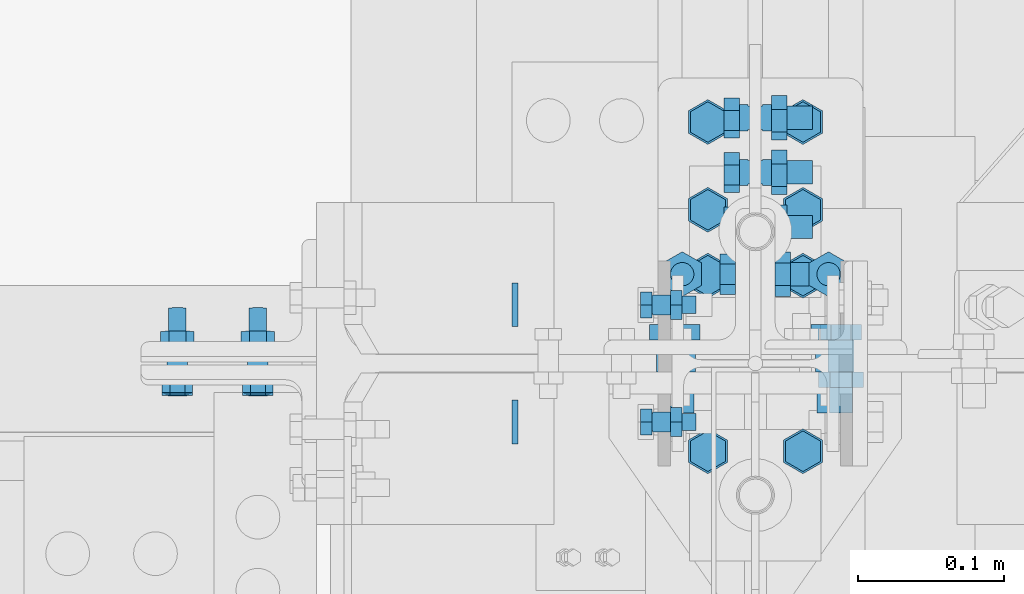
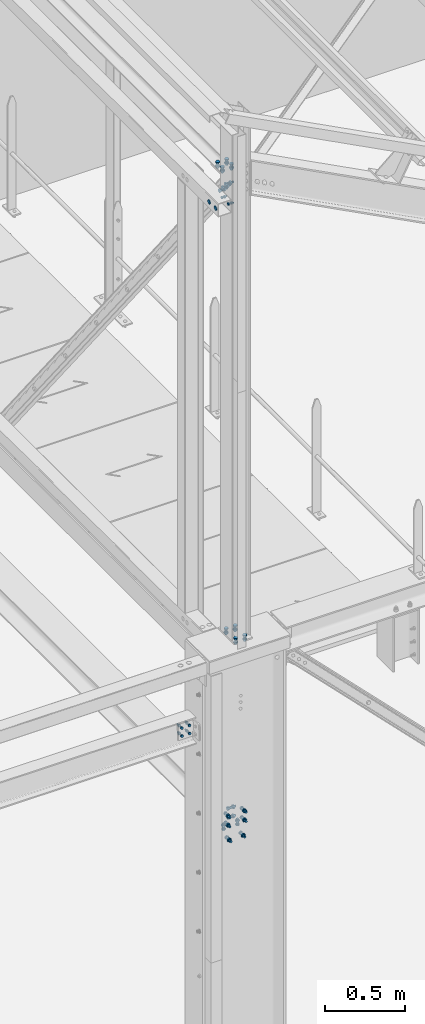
# One storey, part 145 of 362: 11 mechanical fasteners.
"""IFC2X3 building model written with IfcOpenShell, lengths in millimetres."""

from ifc_helpers import new_model, si_unit, frame, origin_with_axes, origin_2d_with_axis, place, context, subcontext, project, spatial, polyline, circle, outline, extrude, source, transform, mapped, material, type_object, element, save


model = new_model("IFC2X3")

# Units and contexts
model_context = context("Model", 3, precision=1e-05, world=origin_with_axes())
body_context = subcontext(model_context, "Body", "Model", "MODEL_VIEW")
ifc_project = project(units=[si_unit("LENGTHUNIT", "METRE", prefix="MILLI"), si_unit("AREAUNIT", "SQUARE_METRE"), si_unit("VOLUMEUNIT", "CUBIC_METRE"), si_unit("MASSUNIT", "GRAM", prefix="KILO"), si_unit("TIMEUNIT", "SECOND"), si_unit("PLANEANGLEUNIT", "RADIAN"), si_unit("SOLIDANGLEUNIT", "STERADIAN"), si_unit("THERMODYNAMICTEMPERATUREUNIT", "DEGREE_CELSIUS"), si_unit("LUMINOUSINTENSITYUNIT", "LUMEN")], contexts=[model_context])

# Site, building, storey
site_placement = place(None, origin_with_axes())
site = spatial("IfcSite", under=ifc_project, at=site_placement, Name="Undefined", CompositionType="ELEMENT")
building_placement = place(site_placement, origin_with_axes())
building = spatial("IfcBuilding", under=site, at=building_placement, Name="Undefined", CompositionType="ELEMENT")
storey_placement = place(building_placement, origin_with_axes())
storey = spatial("IfcBuildingStorey", under=building, at=storey_placement, Name="Undefined", CompositionType="ELEMENT", Elevation=0.0)

# Mechanical fasteners
ifc_material_1 = material(Name="6.8")
mechanical_fastener_type = type_object("IfcMechanicalFastenerType", Name="Bolt assembly")
shared_shape_1 = source(origin_with_axes(), body_context, "Body", "SweptSolid", [
    extrude(circle(Radius=15.0, at=origin_2d_with_axis()), frame((0.0, 0.0, 0.0), z_axis=(0.0, 1.0, 0.0), x_axis=(1.0, 0.0, 0.0)), (0.0, 0.0, 1.0), 4.1),
])
mechanical_fastener_1_placement = place(storey_placement, frame((12513.5000000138, 2.27373675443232e-13, 11870.0), z_axis=(0.0, 1.0, 0.0), x_axis=(0.0, 0.0, 1.0)))
element("IfcMechanicalFastener", 1, at=mechanical_fastener_1_placement, inside=storey, type_object=mechanical_fastener_type, material=ifc_material_1, Name="Bolt assembly", NominalDiameter=30.0, NominalLength=4.0, context=body_context, shape_type="MappedRepresentation", body=[
    mapped(shared_shape_1, transform((0.0, 0.0, 40.0))),
    mapped(shared_shape_1, transform((0.0, 0.0, -40.0))),
])
ifc_material_2 = material(Name="8.8-SB-ZINGUE")
shared_shape_2 = source(origin_with_axes(), body_context, "Body", "SweptSolid", [
    extrude(circle(Radius=9.0, at=origin_2d_with_axis()), frame((0.0, -10.9000000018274, 0.0), z_axis=(0.0, 1.0, 0.0), x_axis=(1.0, 0.0, 0.0)), (0.0, 0.0, 1.0), 6.0),
    extrude(circle(Radius=9.0, at=origin_2d_with_axis()), frame((0.0, 4.9000000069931, 0.0), z_axis=(0.0, 1.0, 0.0), x_axis=(1.0, 0.0, 0.0)), (0.0, 0.0, 1.0), 6.1),
    extrude(circle(Radius=9.0, at=origin_2d_with_axis()), frame((0.0, -3.99999923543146, 0.0), z_axis=(0.0, 1.0, 0.0), x_axis=(1.0, 0.0, 0.0)), (0.0, 0.0, 1.0), 8.0),
    extrude(outline(polyline([(13.85640646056, 0.0), (6.92820323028, 12.0000000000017), (-6.92820323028, 12.0000000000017), (-13.85640646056, 0.0), (-6.92820323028, -12.0000000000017), (6.92820323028, -12.0000000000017), (13.85640646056, 0.0)])), frame((0.0, -21.5600000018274, 0.0), z_axis=(0.0, 1.0, 0.0), x_axis=(1.0, 0.0, 0.0)), (0.0, 0.0, 1.0), 10.56),
    extrude(circle(Radius=8.0, at=origin_2d_with_axis()), frame((0.0, -11.0000000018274, 0.0), z_axis=(0.0, 1.0, 0.0), x_axis=(1.0, 0.0, 0.0)), (0.0, 0.0, 1.0), 50.0),
    extrude(outline(polyline([(15.3344231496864, 0.0), (7.6672115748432, 13.2800000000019), (-7.6672115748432, 13.2800000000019), (-15.3344231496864, 0.0), (-7.6672115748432, -13.2800000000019), (7.6672115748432, -13.2800000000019), (15.3344231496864, 0.0)])), frame((0.0, 11.0000000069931, 0.0), z_axis=(0.0, 1.0, 0.0), x_axis=(1.0, 0.0, 0.0)), (0.0, 0.0, 1.0), 10.56),
])
mechanical_fastener_2_placement = place(storey_placement, frame((12680.0, 93.2660677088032, 11919.5160833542), z_axis=(0.0, -0.78322611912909, -0.621736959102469), x_axis=(0.0, 0.621736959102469, -0.78322611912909)))
element("IfcMechanicalFastener", 2, at=mechanical_fastener_2_placement, inside=storey, type_object=mechanical_fastener_type, material=ifc_material_2, Name="Bolt assembly", NominalDiameter=16.0, NominalLength=50.0, context=body_context, shape_type="MappedRepresentation", body=[
    mapped(shared_shape_2, transform((0.0, 0.0, 0.0))),
    mapped(shared_shape_2, transform((60.0, 0.0, 0.0))),
    mapped(shared_shape_2, transform((120.0, 0.0, 0.0))),
])
shared_shape_3 = source(origin_with_axes(), body_context, "Body", "SweptSolid", [
    extrude(circle(Radius=7.0, at=origin_2d_with_axis()), frame((0.0, -3.89999843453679, 0.0), z_axis=(0.0, 1.0, 0.0), x_axis=(1.0, 0.0, 0.0)), (0.0, 0.0, 1.0), 4.0),
    extrude(circle(Radius=7.0, at=origin_2d_with_axis()), frame((0.0, -0.100011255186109, 0.0), z_axis=(0.0, 1.0, 0.0), x_axis=(1.0, 0.0, 0.0)), (0.0, 0.0, 1.0), 8.6),
    extrude(outline(polyline([(10.39230484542, 0.0), (5.19615242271, 9.00000000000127), (-5.19615242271, 9.00000000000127), (-10.39230484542, 0.0), (-5.19615242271, -9.00000000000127), (5.19615242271, -9.00000000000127), (10.39230484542, 0.0)])), frame((0.0, -11.9199984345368, 0.0), z_axis=(0.0, 1.0, 0.0), x_axis=(1.0, 0.0, 0.0)), (0.0, 0.0, 1.0), 7.92),
    extrude(circle(Radius=6.0, at=origin_2d_with_axis()), frame((0.0, -3.99999923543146, 0.0), z_axis=(0.0, 1.0, 0.0), x_axis=(1.0, 0.0, 0.0)), (0.0, 0.0, 1.0), 30.0),
    extrude(outline(polyline([(11.5008173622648, 0.0), (5.7504086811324, 9.96000000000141), (-5.7504086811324, 9.96000000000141), (-11.5008173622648, 0.0), (-5.7504086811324, -9.96000000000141), (5.7504086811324, -9.96000000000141), (11.5008173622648, 0.0)])), frame((0.0, 8.49999994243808, 0.0), z_axis=(0.0, 1.0, 0.0), x_axis=(1.0, 0.0, 0.0)), (0.0, 0.0, 1.0), 7.92),
])
mechanical_fastener_3_placement = place(storey_placement, frame((12613.5, 0.0, 11869.9999981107), z_axis=(0.0, 1.0, 0.0), x_axis=(0.0, 0.0, 1.0)))
element("IfcMechanicalFastener", 3, at=mechanical_fastener_3_placement, inside=storey, type_object=mechanical_fastener_type, material=ifc_material_2, Name="Bolt assembly", NominalDiameter=12.0, NominalLength=30.0, context=body_context, shape_type="MappedRepresentation", body=[
    mapped(shared_shape_3, transform((0.0, 0.0, -40.0))),
    mapped(shared_shape_3, transform((0.0, 0.0, 40.0))),
])
shared_shape_4 = source(origin_with_axes(), body_context, "Body", "SweptSolid", [
    extrude(circle(Radius=7.0, at=origin_2d_with_axis()), frame((0.0, -2.79781492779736, 0.0), z_axis=(0.0, 1.0, 0.0), x_axis=(1.0, 0.0, 0.0)), (0.0, 0.0, 1.0), 5.6),
    extrude(circle(Radius=7.0, at=origin_2d_with_axis()), frame((0.0, -12.9001594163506, 0.0), z_axis=(0.0, 1.0, 0.0), x_axis=(1.0, 0.0, 0.0)), (0.0, 0.0, 1.0), 10.0),
    extrude(circle(Radius=7.0, at=origin_2d_with_axis()), frame((0.0, 2.90070287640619, 0.0), z_axis=(0.0, 1.0, 0.0), x_axis=(1.0, 0.0, 0.0)), (0.0, 0.0, 1.0), 10.1),
    extrude(outline(polyline([(10.39230484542, 0.0), (5.19615242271, 9.00000000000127), (-5.19615242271, 9.00000000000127), (-10.39230484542, 0.0), (-5.19615242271, -9.00000000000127), (5.19615242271, -9.00000000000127), (10.39230484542, 0.0)])), frame((0.0, -20.9201594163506, 0.0), z_axis=(0.0, 1.0, 0.0), x_axis=(1.0, 0.0, 0.0)), (0.0, 0.0, 1.0), 7.92),
    extrude(circle(Radius=6.0, at=origin_2d_with_axis()), frame((0.0, -13.0001594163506, 0.0), z_axis=(0.0, 1.0, 0.0), x_axis=(1.0, 0.0, 0.0)), (0.0, 0.0, 1.0), 50.0),
    extrude(outline(polyline([(11.5008173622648, 0.0), (5.7504086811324, 9.96000000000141), (-5.7504086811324, 9.96000000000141), (-11.5008173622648, 0.0), (-5.7504086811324, -9.96000000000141), (5.7504086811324, -9.96000000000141), (11.5008173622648, 0.0)])), frame((0.0, 13.0007028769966, 0.0), z_axis=(0.0, 1.0, 0.0), x_axis=(1.0, 0.0, 0.0)), (0.0, 0.0, 1.0), 7.92),
])
mechanical_fastener_4_placement = place(storey_placement, frame((12284.9978557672, -0.0021212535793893, 7949.95412905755), z_axis=(7.58071938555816e-11, 0.0314107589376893, 0.999506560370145), x_axis=(0.999999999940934, -1.08559999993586e-05, 5.27999997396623e-07)))
element("IfcMechanicalFastener", 4, at=mechanical_fastener_4_placement, inside=storey, type_object=mechanical_fastener_type, material=ifc_material_2, Name="Bolt assembly", NominalDiameter=12.0, NominalLength=50.0, context=body_context, shape_type="MappedRepresentation", body=[
    mapped(shared_shape_4, transform((0.0, 0.0, -30.0))),
    mapped(shared_shape_4, transform((55.0000000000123, 3.45607986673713e-11, -30.0000000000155))),
    mapped(shared_shape_4, transform((0.0, 0.0, 30.0))),
    mapped(shared_shape_4, transform((54.9999999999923, 3.45607986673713e-11, 29.9999999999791))),
])
shared_shape_5 = source(origin_with_axes(), body_context, "Body", "SweptSolid", [
    extrude(circle(Radius=9.0, at=origin_2d_with_axis()), frame((0.0, -0.0860116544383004, 0.0), z_axis=(0.0, 1.0, 0.0), x_axis=(1.0, 0.0, 0.0)), (0.0, 0.0, 1.0), 12.1),
    extrude(circle(Radius=9.0, at=origin_2d_with_axis()), frame((0.0, -9.88833050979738, 0.0), z_axis=(0.0, 1.0, 0.0), x_axis=(1.0, 0.0, 0.0)), (0.0, 0.0, 1.0), 10.0),
    extrude(outline(polyline([(13.85640646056, 0.0), (6.92820323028, 12.0000000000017), (-6.92820323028, 12.0000000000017), (-13.85640646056, 0.0), (-6.92820323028, -12.0000000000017), (6.92820323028, -12.0000000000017), (13.85640646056, 0.0)])), frame((0.0, -20.5483104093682, 0.0), z_axis=(0.0, 1.0, 0.0), x_axis=(1.0, 0.0, 0.0)), (0.0, 0.0, 1.0), 10.56),
    extrude(circle(Radius=8.0, at=origin_2d_with_axis()), frame((0.0, -9.98833050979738, 0.0), z_axis=(0.0, 1.0, 0.0), x_axis=(1.0, 0.0, 0.0)), (0.0, 0.0, 1.0), 50.0),
    extrude(outline(polyline([(15.3344231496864, 0.0), (7.6672115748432, 13.2800000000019), (-7.6672115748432, 13.2800000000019), (-15.3344231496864, 0.0), (-7.6672115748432, -13.2800000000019), (7.6672115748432, -13.2800000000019), (15.3344231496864, 0.0)])), frame((0.0, 12.0139887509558, 0.0), z_axis=(0.0, 1.0, 0.0), x_axis=(1.0, 0.0, 0.0)), (0.0, 0.0, 1.0), 10.56),
])
mechanical_fastener_5_placement = place(storey_placement, frame((12621.4999984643, 6.01398834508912, 7154.99987570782), z_axis=(0.0, 0.0, -1.0), x_axis=(0.999999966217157, 0.000259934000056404, 0.0)))
element("IfcMechanicalFastener", 5, at=mechanical_fastener_5_placement, inside=storey, type_object=mechanical_fastener_type, material=ifc_material_2, Name="Bolt assembly", NominalDiameter=16.0, NominalLength=50.0, context=body_context, shape_type="MappedRepresentation", body=[
    mapped(shared_shape_5, transform((0.0, 0.0, -35.0))),
    mapped(shared_shape_5, transform((0.0, 0.0, 35.0))),
])
shared_shape_6 = source(origin_with_axes(), body_context, "Body", "SweptSolid", [
    extrude(circle(Radius=9.0, at=origin_2d_with_axis()), frame((0.0, -0.0869447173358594, 0.0), z_axis=(0.0, 1.0, 0.0), x_axis=(1.0, 0.0, 0.0)), (0.0, 0.0, 1.0), 12.1),
    extrude(circle(Radius=9.0, at=origin_2d_with_axis()), frame((0.0, -9.8892433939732, 0.0), z_axis=(0.0, 1.0, 0.0), x_axis=(1.0, 0.0, 0.0)), (0.0, 0.0, 1.0), 10.0),
    extrude(outline(polyline([(13.85640646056, 0.0), (6.92820323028, 12.0000000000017), (-6.92820323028, 12.0000000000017), (-13.85640646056, 0.0), (-6.92820323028, -12.0000000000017), (6.92820323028, -12.0000000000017), (13.85640646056, 0.0)])), frame((0.0, -20.5492433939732, 0.0), z_axis=(0.0, 1.0, 0.0), x_axis=(1.0, 0.0, 0.0)), (0.0, 0.0, 1.0), 10.56),
    extrude(circle(Radius=8.0, at=origin_2d_with_axis()), frame((0.0, -9.9892433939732, 0.0), z_axis=(0.0, 1.0, 0.0), x_axis=(1.0, 0.0, 0.0)), (0.0, 0.0, 1.0), 50.0),
    extrude(outline(polyline([(15.3344231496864, 0.0), (7.6672115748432, 13.2800000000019), (-7.6672115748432, 13.2800000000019), (-15.3344231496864, 0.0), (-7.6672115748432, -13.2800000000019), (7.6672115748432, -13.2800000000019), (15.3344231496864, 0.0)])), frame((0.0, 12.0130556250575, 0.0), z_axis=(0.0, 1.0, 0.0), x_axis=(1.0, 0.0, 0.0)), (0.0, 0.0, 1.0), 10.56),
])
mechanical_fastener_6_placement = place(storey_placement, frame((12738.5000012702, 6.01305528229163, 7154.99987571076), z_axis=(0.0, 0.0, 1.0), x_axis=(-0.999999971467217, 0.000238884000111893, 0.0)))
element("IfcMechanicalFastener", 6, at=mechanical_fastener_6_placement, inside=storey, type_object=mechanical_fastener_type, material=ifc_material_2, Name="Bolt assembly", NominalDiameter=16.0, NominalLength=50.0, context=body_context, shape_type="MappedRepresentation", body=[
    mapped(shared_shape_6, transform((0.0, 0.0, -35.0))),
    mapped(shared_shape_6, transform((0.0, 0.0, 35.0))),
])
shared_shape_7 = source(origin_with_axes(), body_context, "Body", "SweptSolid", [
    extrude(circle(Radius=9.0, at=origin_2d_with_axis()), frame((0.0, -3.25000000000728, 0.0), z_axis=(0.0, 1.0, 0.0), x_axis=(1.0, 0.0, 0.0)), (0.0, 0.0, 1.0), 6.5),
    extrude(circle(Radius=9.0, at=origin_2d_with_axis()), frame((0.0, 3.40000111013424, 0.0), z_axis=(0.0, 1.0, 0.0), x_axis=(1.0, 0.0, 0.0)), (0.0, 0.0, 1.0), 10.1),
    extrude(circle(Radius=9.0, at=origin_2d_with_axis()), frame((0.0, -13.4000000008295, 0.0), z_axis=(0.0, 1.0, 0.0), x_axis=(1.0, 0.0, 0.0)), (0.0, 0.0, 1.0), 10.0),
    extrude(outline(polyline([(13.85640646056, 0.0), (6.92820323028, 12.0000000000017), (-6.92820323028, 12.0000000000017), (-13.85640646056, 0.0), (-6.92820323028, -12.0000000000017), (6.92820323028, -12.0000000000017), (13.85640646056, 0.0)])), frame((0.0, -24.0600000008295, 0.0), z_axis=(0.0, 1.0, 0.0), x_axis=(1.0, 0.0, 0.0)), (0.0, 0.0, 1.0), 10.56),
    extrude(circle(Radius=8.0, at=origin_2d_with_axis()), frame((0.0, -13.4999650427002, 0.0), z_axis=(0.0, 1.0, 0.0), x_axis=(1.0, 0.0, 0.0)), (0.0, 0.0, 1.0), 50.0),
    extrude(outline(polyline([(15.3344231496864, 0.0), (7.6672115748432, 13.2800000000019), (-7.6672115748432, 13.2800000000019), (-15.3344231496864, 0.0), (-7.6672115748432, -13.2800000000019), (7.6672115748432, -13.2800000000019), (15.3344231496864, 0.0)])), frame((0.0, 13.4999999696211, 0.0), z_axis=(0.0, 1.0, 0.0), x_axis=(1.0, 0.0, 0.0)), (0.0, 0.0, 1.0), 10.56),
])
mechanical_fastener_7_placement = place(storey_placement, frame((12679.9999999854, 61.0022984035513, 7154.99987268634), z_axis=(0.0, 0.0, 1.0), x_axis=(0.0, -1.0, 0.0)))
element("IfcMechanicalFastener", 7, at=mechanical_fastener_7_placement, inside=storey, type_object=mechanical_fastener_type, material=ifc_material_2, Name="Bolt assembly", NominalDiameter=16.0, NominalLength=50.0, context=body_context, shape_type="MappedRepresentation", body=[
    mapped(shared_shape_7, transform((0.0, 0.0, 35.0))),
    mapped(shared_shape_7, transform((0.0, 0.0, -35.0))),
])
shared_shape_8 = source(origin_with_axes(), body_context, "Body", "SweptSolid", [
    extrude(circle(Radius=9.0, at=origin_2d_with_axis()), frame((0.0, -0.0997388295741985, 0.0), z_axis=(0.0, 1.0, 0.0), x_axis=(1.0, 0.0, 0.0)), (0.0, 0.0, 1.0), 12.1),
    extrude(circle(Radius=9.0, at=origin_2d_with_axis()), frame((0.0, -9.90351884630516, 0.0), z_axis=(0.0, 1.0, 0.0), x_axis=(1.0, 0.0, 0.0)), (0.0, 0.0, 1.0), 10.0),
    extrude(outline(polyline([(13.85640646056, 0.0), (6.92820323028, 12.0000000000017), (-6.92820323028, 12.0000000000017), (-13.85640646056, 0.0), (-6.92820323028, -12.0000000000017), (6.92820323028, -12.0000000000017), (13.85640646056, 0.0)])), frame((0.0, -20.5635188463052, 0.0), z_axis=(0.0, 1.0, 0.0), x_axis=(1.0, 0.0, 0.0)), (0.0, 0.0, 1.0), 10.56),
    extrude(circle(Radius=8.0, at=origin_2d_with_axis()), frame((0.0, -10.0035188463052, 0.0), z_axis=(0.0, 1.0, 0.0), x_axis=(1.0, 0.0, 0.0)), (0.0, 0.0, 1.0), 50.0),
    extrude(outline(polyline([(15.3344231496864, 0.0), (7.6672115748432, 13.2800000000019), (-7.6672115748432, 13.2800000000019), (-15.3344231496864, 0.0), (-7.6672115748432, -13.2800000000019), (7.6672115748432, -13.2800000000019), (15.3344231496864, 0.0)])), frame((0.0, 12.0003036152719, 0.0), z_axis=(0.0, 1.0, 0.0), x_axis=(1.0, 0.0, 0.0)), (0.0, 0.0, 1.0), 10.56),
])
mechanical_fastener_8_placement = place(storey_placement, frame((12680.0000001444, 6.00030361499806, 7004.99901901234), z_axis=(1.0, 0.0, 0.0), x_axis=(1.99996231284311e-09, 6.74699999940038e-06, 0.999999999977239)))
element("IfcMechanicalFastener", 8, at=mechanical_fastener_8_placement, inside=storey, type_object=mechanical_fastener_type, material=ifc_material_2, Name="Bolt assembly", NominalDiameter=16.0, NominalLength=50.0, context=body_context, shape_type="MappedRepresentation", body=[
    mapped(shared_shape_8, transform((0.0, 0.0, -50.0))),
    mapped(shared_shape_8, transform((0.0, 0.0, 50.0))),
])
shared_shape_9 = source(origin_with_axes(), body_context, "Body", "SweptSolid", [
    extrude(circle(Radius=9.0, at=origin_2d_with_axis()), frame((0.0, -0.0991422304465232, 0.0), z_axis=(0.0, 1.0, 0.0), x_axis=(1.0, 0.0, 0.0)), (0.0, 0.0, 1.0), 10.1),
    extrude(circle(Radius=9.0, at=origin_2d_with_axis()), frame((0.0, -9.9, 0.0), z_axis=(0.0, 1.0, 0.0), x_axis=(1.0, 0.0, 0.0)), (0.0, 0.0, 1.0), 10.0),
    extrude(outline(polyline([(13.85640646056, 0.0), (6.92820323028, 12.0000000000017), (-6.92820323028, 12.0000000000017), (-13.85640646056, 0.0), (-6.92820323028, -12.0000000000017), (6.92820323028, -12.0000000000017), (13.85640646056, 0.0)])), frame((0.0, -20.5600000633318, 0.0), z_axis=(0.0, 1.0, 0.0), x_axis=(1.0, 0.0, 0.0)), (0.0, 0.0, 1.0), 10.56),
    extrude(circle(Radius=8.0, at=origin_2d_with_axis()), frame((0.0, -10.0000010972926, 0.0), z_axis=(0.0, 1.0, 0.0), x_axis=(1.0, 0.0, 0.0)), (0.0, 0.0, 1.0), 40.0),
    extrude(outline(polyline([(15.3344231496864, 0.0), (7.6672115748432, 13.2800000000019), (-7.6672115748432, 13.2800000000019), (-15.3344231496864, 0.0), (-7.6672115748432, -13.2800000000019), (7.6672115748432, -13.2800000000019), (15.3344231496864, 0.0)])), frame((0.0, 10.0008577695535, 0.0), z_axis=(0.0, 1.0, 0.0), x_axis=(1.0, 0.0, 0.0)), (0.0, 0.0, 1.0), 10.56),
])
mechanical_fastener_9_placement = place(storey_placement, frame((12679.9999985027, 61.003057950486, 7059.99901840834), z_axis=(-1.0, 0.0, 0.0), x_axis=(0.0, -1.0, 0.0)))
element("IfcMechanicalFastener", 9, at=mechanical_fastener_9_placement, inside=storey, type_object=mechanical_fastener_type, material=ifc_material_2, Name="Bolt assembly", NominalDiameter=16.0, NominalLength=40.0, context=body_context, shape_type="MappedRepresentation", body=[
    mapped(shared_shape_9, transform((0.0, 0.0, -50.0))),
    mapped(shared_shape_9, transform((0.0, 0.0, 50.0))),
])
shared_shape_10 = source(origin_with_axes(), body_context, "Body", "SweptSolid", [
    extrude(circle(Radius=9.0, at=origin_2d_with_axis()), frame((0.0, -0.10007666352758, 0.0), z_axis=(0.0, 1.0, 0.0), x_axis=(1.0, 0.0, 0.0)), (0.0, 0.0, 1.0), 10.1),
    extrude(circle(Radius=9.0, at=origin_2d_with_axis()), frame((0.0, -9.9, 0.0), z_axis=(0.0, 1.0, 0.0), x_axis=(1.0, 0.0, 0.0)), (0.0, 0.0, 1.0), 10.0),
    extrude(outline(polyline([(13.85640646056, 0.0), (6.92820323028, 12.0000000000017), (-6.92820323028, 12.0000000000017), (-13.85640646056, 0.0), (-6.92820323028, -12.0000000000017), (6.92820323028, -12.0000000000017), (13.85640646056, 0.0)])), frame((0.0, -20.5600000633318, 0.0), z_axis=(0.0, 1.0, 0.0), x_axis=(1.0, 0.0, 0.0)), (0.0, 0.0, 1.0), 10.56),
    extrude(circle(Radius=8.0, at=origin_2d_with_axis()), frame((0.0, -10.0000010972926, 0.0), z_axis=(0.0, 1.0, 0.0), x_axis=(1.0, 0.0, 0.0)), (0.0, 0.0, 1.0), 40.0),
    extrude(outline(polyline([(15.3344231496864, 0.0), (7.6672115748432, 13.2800000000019), (-7.6672115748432, 13.2800000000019), (-15.3344231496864, 0.0), (-7.6672115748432, -13.2800000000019), (7.6672115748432, -13.2800000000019), (15.3344231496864, 0.0)])), frame((0.0, 9.99997734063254, 0.0), z_axis=(0.0, 1.0, 0.0), x_axis=(1.0, 0.0, 0.0)), (0.0, 0.0, 1.0), 10.56),
])
mechanical_fastener_10_placement = place(storey_placement, frame((12680.0, -59.9999999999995, 8549.9999684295), z_axis=(-1.0, 0.0, 0.0), x_axis=(0.0, 1.0, 0.0)))
element("IfcMechanicalFastener", 10, at=mechanical_fastener_10_placement, inside=storey, type_object=mechanical_fastener_type, material=ifc_material_2, Name="Bolt assembly", NominalDiameter=16.0, NominalLength=40.0, context=body_context, shape_type="MappedRepresentation", body=[
    mapped(shared_shape_10, transform((0.0, 0.0, -32.5))),
    mapped(shared_shape_10, transform((120.0, 0.0, -32.5))),
    mapped(shared_shape_10, transform((0.0, 0.0, 32.5))),
    mapped(shared_shape_10, transform((120.0, 0.0, 32.5))),
])
shared_shape_11 = source(origin_with_axes(), body_context, "Body", "SweptSolid", [
    extrude(circle(Radius=9.0, at=origin_2d_with_axis()), frame((0.0, -8.40001950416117, 0.0), z_axis=(0.0, 1.0, 0.0), x_axis=(1.0, 0.0, 0.0)), (0.0, 0.0, 1.0), 8.5),
    extrude(circle(Radius=9.0, at=origin_2d_with_axis()), frame((0.0, -0.100011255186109, 0.0), z_axis=(0.0, 1.0, 0.0), x_axis=(1.0, 0.0, 0.0)), (0.0, 0.0, 1.0), 10.1),
    extrude(outline(polyline([(13.85640646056, 0.0), (6.92820323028, 12.0000000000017), (-6.92820323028, 12.0000000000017), (-13.85640646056, 0.0), (-6.92820323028, -12.0000000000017), (6.92820323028, -12.0000000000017), (13.85640646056, 0.0)])), frame((0.0, -19.0599999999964, 0.0), z_axis=(0.0, 1.0, 0.0), x_axis=(1.0, 0.0, 0.0)), (0.0, 0.0, 1.0), 10.56),
    extrude(circle(Radius=8.0, at=origin_2d_with_axis()), frame((0.0, -8.5, 0.0), z_axis=(0.0, 1.0, 0.0), x_axis=(1.0, 0.0, 0.0)), (0.0, 0.0, 1.0), 40.0),
    extrude(outline(polyline([(15.3344231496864, 0.0), (7.6672115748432, 13.2800000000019), (-7.6672115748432, 13.2800000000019), (-15.3344231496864, 0.0), (-7.6672115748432, -13.2800000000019), (7.6672115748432, -13.2800000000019), (15.3344231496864, 0.0)])), frame((0.0, 10.0000000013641, 0.0), z_axis=(0.0, 1.0, 0.0), x_axis=(1.0, 0.0, 0.0)), (0.0, 0.0, 1.0), 10.56),
])
mechanical_fastener_11_placement = place(storey_placement, frame((12680.0000000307, 104.999999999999, 12037.0), z_axis=(-1.0, 0.0, 0.0), x_axis=(0.0, 1.0, 0.0)))
element("IfcMechanicalFastener", 11, at=mechanical_fastener_11_placement, inside=storey, type_object=mechanical_fastener_type, material=ifc_material_2, Name="Bolt assembly", NominalDiameter=16.0, NominalLength=40.0, context=body_context, shape_type="MappedRepresentation", body=[
    mapped(shared_shape_11, transform((0.0, 0.0, -32.5))),
    mapped(shared_shape_11, transform((60.0, 0.0, -32.5))),
    mapped(shared_shape_11, transform((0.0, 0.0, 32.5))),
    mapped(shared_shape_11, transform((60.0, 0.0, 32.5))),
])

save(model, "model.ifc")
